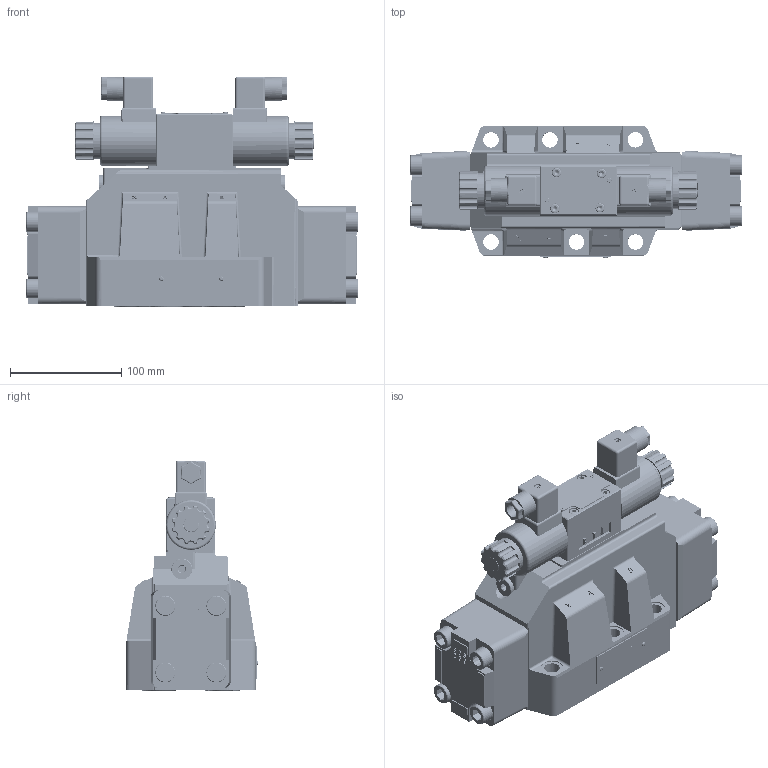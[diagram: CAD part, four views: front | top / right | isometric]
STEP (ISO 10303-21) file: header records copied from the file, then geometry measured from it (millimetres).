
FILE_DESCRIPTION(/* description */ (''),/* implementation_level */ '2;1');
FILE_NAME(/* name */ '4WEH25-5XJ电液换向阀（三位阀）.prt.stp',/* time_stamp */ '2022-03-30T19:43:33+08:00',/* author */ (''),/* organization */ (''),/* preprocessor_version */ 'ST-DEVELOPER v16.7',/* originating_system */ 'SIEMENS PLM Software NX 12.0',/* authorisation */ '');
FILE_SCHEMA (('AUTOMOTIVE_DESIGN { 1 0 10303 214 3 1 1 1 }'));
Products named in the file (1): 4WEH25-5XJ电液换向阀（三位阀）
Bounding box: 299 x 119 x 208.02 mm (x, y, z)
Volume: 2750842.4 mm3; surface area: 419226.8 mm2
Topology: 43 solids, 65 shells, 2761 faces, 7293 edges, 4745 vertices
Faces by surface type: plane 1142, cylinder 1034, bspline 163, extrusion 155, cone 137, torus 89, sphere 41
Full cylindrical faces by diameter (mm): 1.5 x4, 1.8 x6, 1.9 x4, 2 x5, 2.55 x38, 3 x2, 3.5 x2, 4 x4, 4.2 x33, 5 x123, 5.3 x4, 5.5 x5, 6 x2, 6.5 x3, 7 x1, 8 x5, 8.1 x2, 8.28 x4, 8.5 x96, 9.4 x4, 9.653 x4, 11 x11, 11.093 x2, 11.1 x2, 12 x189, 12.085 x2, 12.2 x4, 13.2 x2, 14 x10, 14.3 x2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
Entity records: 211569 total; most frequent: CARTESIAN_POINT 158557, ORIENTED_EDGE 10464, DIRECTION 9507, EDGE_CURVE 5232, VERTEX_POINT 3524, AXIS2_PLACEMENT_3D 3328, VECTOR 2851, EDGE_LOOP 2797
